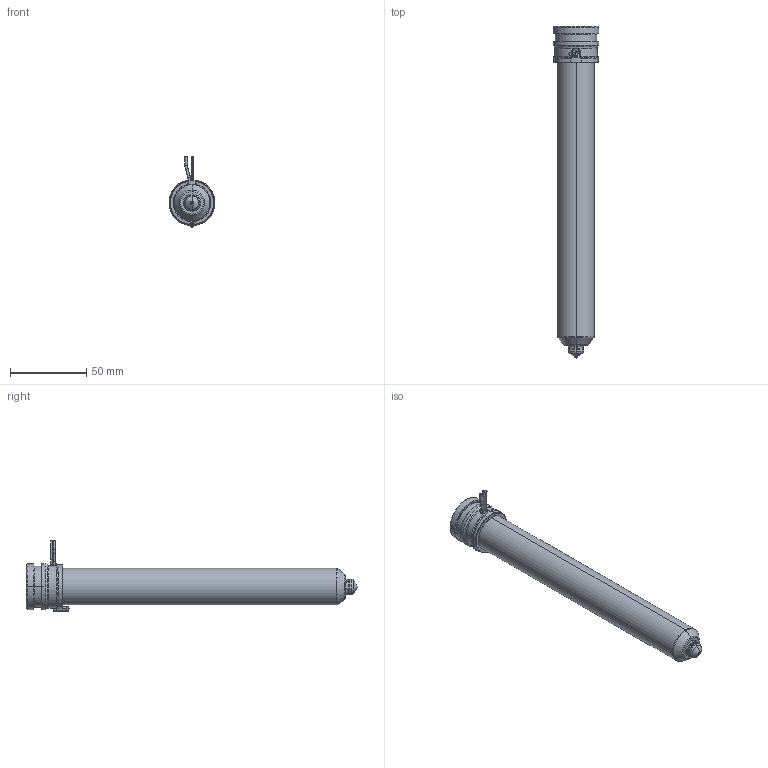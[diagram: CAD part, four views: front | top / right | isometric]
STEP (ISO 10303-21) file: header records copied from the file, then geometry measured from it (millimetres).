
FILE_DESCRIPTION((''),'2;1');
FILE_NAME('MPN-10-29-TX10-196-A','2026-02-11T11:18:06',('UVRWS'),('Thermoplay S.p.A.'),'CREO PARAMETRIC BY PTC INC, 2023494','CREO PARAMETRIC BY PTC INC, 2023494','');
FILE_SCHEMA(('CONFIG_CONTROL_DESIGN','SHAPE_APPEARANCE_LAYERS_GROUPS'));
Length unit declared in the file: millimetre
Products named in the file (1): MPN-10-29-TX10-196-A
Bounding box: 30 x 217.5 x 46 mm (x, y, z)
Volume: 66940.7 mm3; surface area: 67899.6 mm2
Topology: 2 solids, 3 shells, 551 faces, 1455 edges, 899 vertices
Faces by surface type: cylinder 180, plane 143, bspline 79, torus 68, cone 66, sphere 11, extrusion 4
Entity records: 31345 total; most frequent: CARTESIAN_POINT 14989, ORIENTED_EDGE 2894, DIRECTION 2641, EDGE_CURVE 1447, AXIS2_PLACEMENT_3D 1045, VERTEX_POINT 899, EDGE_LOOP 580, CIRCLE 576
